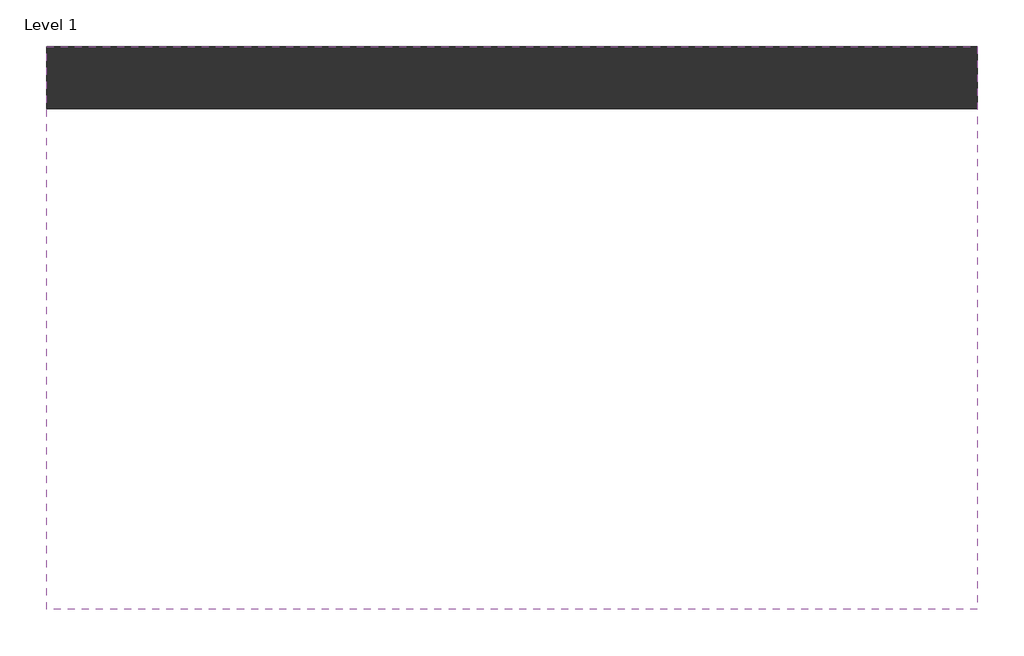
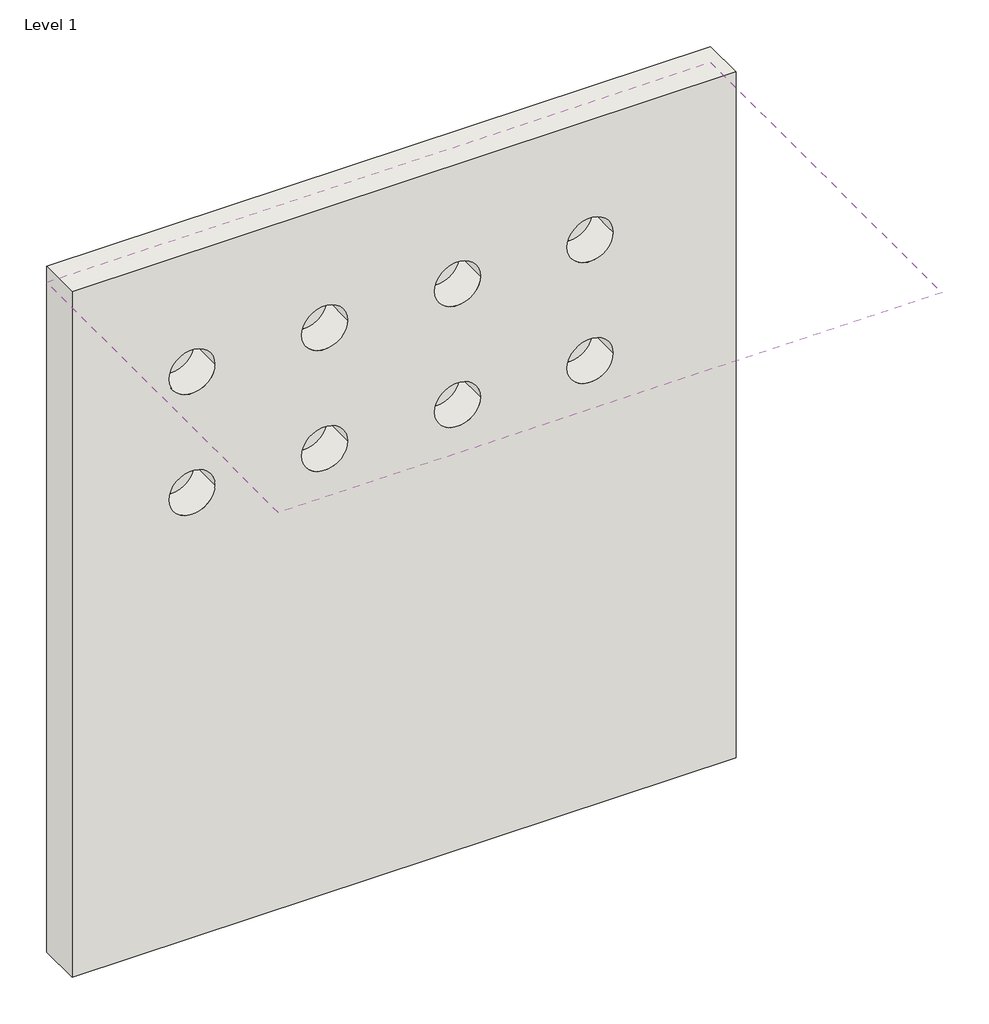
# One storey, incomplete: 1 covering, 1 wall.
"""IFC4 building model written with IfcOpenShell, lengths in millimetres."""

from ifc_helpers import new_model, si_unit, point, frame, frame_2d, origin, place, context, project, spatial, polyline, circle_curve, trimmed, segment, composite_curve, outline, extrude, element, save
from ifc_brep_helpers import plane_surface, revolved_surface, advanced_brep

model = new_model("IFC4")

# Units and contexts
model_context = context("Model", 3, world=origin())
ifc_project = project(units=[si_unit("LENGTHUNIT", "METRE", prefix="MILLI")], contexts=[model_context])

# Site, building, storey
site = spatial("IfcSite", under=ifc_project)
building = spatial("IfcBuilding", under=site)
storey = spatial("IfcBuildingStorey", under=building, Name="Level 1", Elevation=0.0)

# Covering
placement = place(None, origin())
element("IfcCovering", 1, ObjectType="2' x 4' ACT System", at=placement, inside=storey, context=model_context, shape_type="SweptSolid", body=[
    extrude(outline(polyline([(1833.1973575, 2115.5766815), (4119.1973575, 2115.5766815), (4119.1973575, 732.2741036), (1833.1973575, 732.2741036), (1833.1973575, 2115.5766815)]), holes=[composite_curve([segment(trimmed(circle_curve(frame_2d((2246.1306576, 1619.3766815)), 79.0), [point((2325.1306576, 1619.3766815))], [point((2167.1306576, 1619.3766815))], True, "CARTESIAN"), True, "CONTINUOUS"), segment(trimmed(circle_curve(frame_2d((2246.1306576, 1619.3766815)), 79.0), [point((2167.1306576, 1619.3766815))], [point((2325.1306576, 1619.3766815))], True, "CARTESIAN"), True, "CONTINUOUS")], self_intersect=False), composite_curve([segment(trimmed(circle_curve(frame_2d((2706.1306576, 1619.3766815)), 79.0), [point((2785.1306576, 1619.3766815))], [point((2627.1306576, 1619.3766815))], True, "CARTESIAN"), True, "CONTINUOUS"), segment(trimmed(circle_curve(frame_2d((2706.1306576, 1619.3766815)), 79.0), [point((2627.1306576, 1619.3766815))], [point((2785.1306576, 1619.3766815))], True, "CARTESIAN"), True, "CONTINUOUS")], self_intersect=False), composite_curve([segment(trimmed(circle_curve(frame_2d((3166.1306576, 1619.3766815)), 79.0), [point((3245.1306576, 1619.3766815))], [point((3087.1306576, 1619.3766815))], True, "CARTESIAN"), True, "CONTINUOUS"), segment(trimmed(circle_curve(frame_2d((3166.1306576, 1619.3766815)), 79.0), [point((3087.1306576, 1619.3766815))], [point((3245.1306576, 1619.3766815))], True, "CARTESIAN"), True, "CONTINUOUS")], self_intersect=False), composite_curve([segment(trimmed(circle_curve(frame_2d((3626.1306576, 1619.3766815)), 79.0), [point((3705.1306576, 1619.3766815))], [point((3547.1306576, 1619.3766815))], True, "CARTESIAN"), True, "CONTINUOUS"), segment(trimmed(circle_curve(frame_2d((3626.1306576, 1619.3766815)), 79.0), [point((3547.1306576, 1619.3766815))], [point((3705.1306576, 1619.3766815))], True, "CARTESIAN"), True, "CONTINUOUS")], self_intersect=False), composite_curve([segment(trimmed(circle_curve(frame_2d((3626.1306576, 1219.3766815)), 79.0), [point((3705.1306576, 1219.3766815))], [point((3547.1306576, 1219.3766815))], True, "CARTESIAN"), True, "CONTINUOUS"), segment(trimmed(circle_curve(frame_2d((3626.1306576, 1219.3766815)), 79.0), [point((3547.1306576, 1219.3766815))], [point((3705.1306576, 1219.3766815))], True, "CARTESIAN"), True, "CONTINUOUS")], self_intersect=False), composite_curve([segment(trimmed(circle_curve(frame_2d((3166.1306576, 1219.3766815)), 79.0), [point((3245.1306576, 1219.3766815))], [point((3087.1306576, 1219.3766815))], True, "CARTESIAN"), True, "CONTINUOUS"), segment(trimmed(circle_curve(frame_2d((3166.1306576, 1219.3766815)), 79.0), [point((3087.1306576, 1219.3766815))], [point((3245.1306576, 1219.3766815))], True, "CARTESIAN"), True, "CONTINUOUS")], self_intersect=False), composite_curve([segment(trimmed(circle_curve(frame_2d((2706.1306576, 1219.3766815)), 79.0), [point((2785.1306576, 1219.3766815))], [point((2627.1306576, 1219.3766815))], True, "CARTESIAN"), True, "CONTINUOUS"), segment(trimmed(circle_curve(frame_2d((2706.1306576, 1219.3766815)), 79.0), [point((2627.1306576, 1219.3766815))], [point((2785.1306576, 1219.3766815))], True, "CARTESIAN"), True, "CONTINUOUS")], self_intersect=False), composite_curve([segment(trimmed(circle_curve(frame_2d((2246.1306576, 1219.3766815)), 79.0), [point((2325.1306576, 1219.3766815))], [point((2167.1306576, 1219.3766815))], True, "CARTESIAN"), True, "CONTINUOUS"), segment(trimmed(circle_curve(frame_2d((2246.1306576, 1219.3766815)), 79.0), [point((2167.1306576, 1219.3766815))], [point((2325.1306576, 1219.3766815))], True, "CARTESIAN"), True, "CONTINUOUS")], self_intersect=False)]), frame((0.0, 0.0, 2438.4), z_axis=(0.0, 0.0, 1.0), x_axis=(1.0, 0.0, 0.0)), (0.0, 0.0, 1.0), 57.15),
])

# Wall
element("IfcWall", 2, ObjectType="Exterior - 6\" Generic", at=placement, inside=storey, context=model_context, shape_type="AdvancedBrep", body=[
    advanced_brep(
    [(1833.1973575, 1963.1766815, 0.0), (4119.1973575, 1963.1766815, 0.0), (4119.1973575, 1963.1766815, 2495.55), (1833.1973575, 1963.1766815, 2495.55), (2167.1306576, 1963.1766815, 1620.4804373), (2325.1306576, 1963.1766815, 1620.4804373), (2624.3306576, 1963.1766815, 1620.4804373), (2782.3306576, 1963.1766815, 1620.4804373), (3081.5306576, 1963.1766815, 1620.4804373), (3239.5306576, 1963.1766815, 1620.4804373), (3538.7306576, 1963.1766815, 1620.4804373), (3696.7306576, 1963.1766815, 1620.4804373), (3538.7306576, 1963.1766815, 2060.4804373), (3696.7306576, 1963.1766815, 2060.4804373), (3081.5306576, 1963.1766815, 2060.4804373), (3239.5306576, 1963.1766815, 2060.4804373), (2624.3306576, 1963.1766815, 2060.4804373), (2782.3306576, 1963.1766815, 2060.4804373), (2167.1306576, 1963.1766815, 2060.4804373), (2325.1306576, 1963.1766815, 2060.4804373), (4119.1973575, 2115.5766815, 0.0), (1833.1973575, 2115.5766815, 0.0), (1833.1973575, 2115.5766815, 2495.55), (4119.1973575, 2115.5766815, 2495.55), (2325.1306576, 2087.1167099, 1620.4804373), (2167.1306576, 2087.1167099, 1620.4804373), (2782.3306576, 2087.1167099, 1620.4804373), (2624.3306576, 2087.1167099, 1620.4804373), (3239.5306576, 2087.1167099, 1620.4804373), (3081.5306576, 2087.1167099, 1620.4804373), (3696.7306576, 2087.1167099, 1620.4804373), (3538.7306576, 2087.1167099, 1620.4804373), (3696.7306576, 2087.1167099, 2060.4804373), (3538.7306576, 2087.1167099, 2060.4804373), (3239.5306576, 2087.1167099, 2060.4804373), (3081.5306576, 2087.1167099, 2060.4804373), (2782.3306576, 2087.1167099, 2060.4804373), (2624.3306576, 2087.1167099, 2060.4804373), (2325.1306576, 2087.1167099, 2060.4804373), (2167.1306576, 2087.1167099, 2060.4804373)],
    [
        (0, 1),
        (1, 2),
        (2, 3),
        (3, 0),
        (4, 5, circle_curve(frame((2246.1306576, 1963.1766815, 1620.4804373), z_axis=(0.0, 1.0, 0.0), x_axis=(-1.0, 0.0, 0.0)), 79.0)),
        (5, 4, circle_curve(frame((2246.1306576, 1963.1766815, 1620.4804373), z_axis=(0.0, 1.0, 0.0), x_axis=(-1.0, 0.0, 0.0)), 79.0)),
        (6, 7, circle_curve(frame((2703.3306576, 1963.1766815, 1620.4804373), z_axis=(0.0, 1.0, 0.0), x_axis=(-1.0, 0.0, 0.0)), 79.0)),
        (7, 6, circle_curve(frame((2703.3306576, 1963.1766815, 1620.4804373), z_axis=(0.0, 1.0, 0.0), x_axis=(-1.0, 0.0, 0.0)), 79.0)),
        (8, 9, circle_curve(frame((3160.5306576, 1963.1766815, 1620.4804373), z_axis=(0.0, 1.0, 0.0), x_axis=(-1.0, 0.0, 0.0)), 79.0)),
        (9, 8, circle_curve(frame((3160.5306576, 1963.1766815, 1620.4804373), z_axis=(0.0, 1.0, 0.0), x_axis=(-1.0, 0.0, 0.0)), 79.0)),
        (10, 11, circle_curve(frame((3617.7306576, 1963.1766815, 1620.4804373), z_axis=(0.0, 1.0, 0.0), x_axis=(-1.0, 0.0, 0.0)), 79.0)),
        (11, 10, circle_curve(frame((3617.7306576, 1963.1766815, 1620.4804373), z_axis=(0.0, 1.0, 0.0), x_axis=(-1.0, 0.0, 0.0)), 79.0)),
        (12, 13, circle_curve(frame((3617.7306576, 1963.1766815, 2060.4804373), z_axis=(0.0, 1.0, 0.0), x_axis=(-1.0, 0.0, 0.0)), 79.0)),
        (13, 12, circle_curve(frame((3617.7306576, 1963.1766815, 2060.4804373), z_axis=(0.0, 1.0, 0.0), x_axis=(-1.0, 0.0, 0.0)), 79.0)),
        (14, 15, circle_curve(frame((3160.5306576, 1963.1766815, 2060.4804373), z_axis=(0.0, 1.0, 0.0), x_axis=(-1.0, 0.0, 0.0)), 79.0)),
        (15, 14, circle_curve(frame((3160.5306576, 1963.1766815, 2060.4804373), z_axis=(0.0, 1.0, 0.0), x_axis=(-1.0, 0.0, 0.0)), 79.0)),
        (16, 17, circle_curve(frame((2703.3306576, 1963.1766815, 2060.4804373), z_axis=(0.0, 1.0, 0.0), x_axis=(-1.0, 0.0, 0.0)), 79.0)),
        (17, 16, circle_curve(frame((2703.3306576, 1963.1766815, 2060.4804373), z_axis=(0.0, 1.0, 0.0), x_axis=(-1.0, 0.0, 0.0)), 79.0)),
        (18, 19, circle_curve(frame((2246.1306576, 1963.1766815, 2060.4804373), z_axis=(0.0, 1.0, 0.0), x_axis=(-1.0, 0.0, 0.0)), 79.0)),
        (19, 18, circle_curve(frame((2246.1306576, 1963.1766815, 2060.4804373), z_axis=(0.0, 1.0, 0.0), x_axis=(-1.0, 0.0, 0.0)), 79.0)),
        (20, 21),
        (21, 22),
        (22, 23),
        (23, 20),
        (0, 21),
        (20, 1),
        (23, 2),
        (22, 3),
        (24, 25, circle_curve(frame((2246.1306576, 2087.1167099, 1620.4804373), z_axis=(0.0, -1.0, 0.0), x_axis=(-1.0, 0.0, 0.0)), 79.0)),
        (25, 24, circle_curve(frame((2246.1306576, 2087.1167099, 1620.4804373), z_axis=(0.0, -1.0, 0.0), x_axis=(-1.0, 0.0, 0.0)), 79.0)),
        (24, 5),
        (4, 25),
        (26, 27, circle_curve(frame((2703.3306576, 2087.1167099, 1620.4804373), z_axis=(0.0, -1.0, 0.0), x_axis=(-1.0, 0.0, 0.0)), 79.0)),
        (27, 26, circle_curve(frame((2703.3306576, 2087.1167099, 1620.4804373), z_axis=(0.0, -1.0, 0.0), x_axis=(-1.0, 0.0, 0.0)), 79.0)),
        (26, 7),
        (6, 27),
        (28, 29, circle_curve(frame((3160.5306576, 2087.1167099, 1620.4804373), z_axis=(0.0, -1.0, 0.0), x_axis=(-1.0, 0.0, 0.0)), 79.0)),
        (29, 28, circle_curve(frame((3160.5306576, 2087.1167099, 1620.4804373), z_axis=(0.0, -1.0, 0.0), x_axis=(-1.0, 0.0, 0.0)), 79.0)),
        (28, 9),
        (8, 29),
        (30, 31, circle_curve(frame((3617.7306576, 2087.1167099, 1620.4804373), z_axis=(0.0, -1.0, 0.0), x_axis=(-1.0, 0.0, 0.0)), 79.0)),
        (31, 30, circle_curve(frame((3617.7306576, 2087.1167099, 1620.4804373), z_axis=(0.0, -1.0, 0.0), x_axis=(-1.0, 0.0, 0.0)), 79.0)),
        (30, 11),
        (10, 31),
        (32, 33, circle_curve(frame((3617.7306576, 2087.1167099, 2060.4804373), z_axis=(0.0, -1.0, 0.0), x_axis=(-1.0, 0.0, 0.0)), 79.0)),
        (33, 32, circle_curve(frame((3617.7306576, 2087.1167099, 2060.4804373), z_axis=(0.0, -1.0, 0.0), x_axis=(-1.0, 0.0, 0.0)), 79.0)),
        (32, 13),
        (12, 33),
        (34, 35, circle_curve(frame((3160.5306576, 2087.1167099, 2060.4804373), z_axis=(0.0, -1.0, 0.0), x_axis=(-1.0, 0.0, 0.0)), 79.0)),
        (35, 34, circle_curve(frame((3160.5306576, 2087.1167099, 2060.4804373), z_axis=(0.0, -1.0, 0.0), x_axis=(-1.0, 0.0, 0.0)), 79.0)),
        (34, 15),
        (14, 35),
        (36, 37, circle_curve(frame((2703.3306576, 2087.1167099, 2060.4804373), z_axis=(0.0, -1.0, 0.0), x_axis=(-1.0, 0.0, 0.0)), 79.0)),
        (37, 36, circle_curve(frame((2703.3306576, 2087.1167099, 2060.4804373), z_axis=(0.0, -1.0, 0.0), x_axis=(-1.0, 0.0, 0.0)), 79.0)),
        (36, 17),
        (16, 37),
        (38, 39, circle_curve(frame((2246.1306576, 2087.1167099, 2060.4804373), z_axis=(0.0, -1.0, 0.0), x_axis=(-1.0, 0.0, 0.0)), 79.0)),
        (39, 38, circle_curve(frame((2246.1306576, 2087.1167099, 2060.4804373), z_axis=(0.0, -1.0, 0.0), x_axis=(-1.0, 0.0, 0.0)), 79.0)),
        (38, 19),
        (18, 39),
    ],
    [
        plane_surface(frame((1833.1973575, 1963.1766815, 0.0), z_axis=(0.0, -1.0, 0.0), x_axis=(1.0, 0.0, 0.0))),
        plane_surface(frame((1833.1973575, 2115.5766815, 0.0), z_axis=(0.0, 1.0, 0.0), x_axis=(-1.0, 0.0, 0.0))),
        plane_surface(frame((1833.1973575, 1963.1766815, 0.0), z_axis=(0.0, 0.0, -1.0), x_axis=(0.0, 1.0, 0.0))),
        plane_surface(frame((4119.1973575, 1963.1766815, 0.0), z_axis=(1.0, 0.0, 0.0), x_axis=(0.0, 1.0, 0.0))),
        plane_surface(frame((4119.1973575, 1963.1766815, 2495.55), z_axis=(0.0, 0.0, 1.0), x_axis=(0.0, 1.0, 0.0))),
        plane_surface(frame((1833.1973575, 1963.1766815, 2495.55), z_axis=(-1.0, 0.0, 0.0), x_axis=(0.0, 1.0, 0.0))),
        plane_surface(frame((2167.1306576, 2087.1167099, 1620.4804373), z_axis=(0.0, -1.0, 0.0), x_axis=(0.0, 0.0, 1.0))),
        revolved_surface(polyline([(2167.1306576, 1963.1766815, 1620.4804373), (2167.1306576, 2087.1167099, 1620.4804373)]), (2246.1306576, 2087.1167099, 1620.4804373), (0.0, -1.0, 0.0)),
        plane_surface(frame((2624.3306576, 2087.1167099, 1620.4804373), z_axis=(0.0, -1.0, 0.0), x_axis=(0.0, 0.0, 1.0))),
        revolved_surface(polyline([(2624.3306576, 1963.1766815, 1620.4804373), (2624.3306576, 2087.1167099, 1620.4804373)]), (2703.3306576, 2087.1167099, 1620.4804373), (0.0, -1.0, 0.0)),
        plane_surface(frame((3081.5306576, 2087.1167099, 1620.4804373), z_axis=(0.0, -1.0, 0.0), x_axis=(0.0, 0.0, 1.0))),
        revolved_surface(polyline([(3081.5306576, 1963.1766815, 1620.4804373), (3081.5306576, 2087.1167099, 1620.4804373)]), (3160.5306576, 2087.1167099, 1620.4804373), (0.0, -1.0, 0.0)),
        plane_surface(frame((3538.7306576, 2087.1167099, 1620.4804373), z_axis=(0.0, -1.0, 0.0), x_axis=(0.0, 0.0, 1.0))),
        revolved_surface(polyline([(3538.7306576, 1963.1766815, 1620.4804373), (3538.7306576, 2087.1167099, 1620.4804373)]), (3617.7306576, 2087.1167099, 1620.4804373), (0.0, -1.0, 0.0)),
        plane_surface(frame((3538.7306576, 2087.1167099, 2060.4804373), z_axis=(0.0, -1.0, 0.0), x_axis=(0.0, 0.0, 1.0))),
        revolved_surface(polyline([(3538.7306576, 1963.1766815, 2060.4804373), (3538.7306576, 2087.1167099, 2060.4804373)]), (3617.7306576, 2087.1167099, 2060.4804373), (0.0, -1.0, 0.0)),
        plane_surface(frame((3081.5306576, 2087.1167099, 2060.4804373), z_axis=(0.0, -1.0, 0.0), x_axis=(0.0, 0.0, 1.0))),
        revolved_surface(polyline([(3081.5306576, 1963.1766815, 2060.4804373), (3081.5306576, 2087.1167099, 2060.4804373)]), (3160.5306576, 2087.1167099, 2060.4804373), (0.0, -1.0, 0.0)),
        plane_surface(frame((2624.3306576, 2087.1167099, 2060.4804373), z_axis=(0.0, -1.0, 0.0), x_axis=(0.0, 0.0, 1.0))),
        revolved_surface(polyline([(2624.3306576, 1963.1766815, 2060.4804373), (2624.3306576, 2087.1167099, 2060.4804373)]), (2703.3306576, 2087.1167099, 2060.4804373), (0.0, -1.0, 0.0)),
        plane_surface(frame((2167.1306576, 2087.1167099, 2060.4804373), z_axis=(0.0, -1.0, 0.0), x_axis=(0.0, 0.0, 1.0))),
        revolved_surface(polyline([(2167.1306576, 1963.1766815, 2060.4804373), (2167.1306576, 2087.1167099, 2060.4804373)]), (2246.1306576, 2087.1167099, 2060.4804373), (0.0, -1.0, 0.0)),
    ],
    [
        (0, [[1, 2, 3, 4], [5, 6], [7, 8], [9, 10], [11, 12], [13, 14], [15, 16], [17, 18], [19, 20]]),
        (1, [[21, 22, 23, 24]]),
        (2, [[-1, 25, -21, 26]]),
        (3, [[-2, -26, -24, 27]]),
        (4, [[-3, -27, -23, 28]]),
        (5, [[-4, -28, -22, -25]]),
        (6, [[29, 30]]),
        (7, [[-29, 31, -5, 32]]),
        (7, [[-30, -32, -6, -31]]),
        (8, [[33, 34]]),
        (9, [[-33, 35, -7, 36]]),
        (9, [[-34, -36, -8, -35]]),
        (10, [[37, 38]]),
        (11, [[-37, 39, -9, 40]]),
        (11, [[-38, -40, -10, -39]]),
        (12, [[41, 42]]),
        (13, [[-41, 43, -11, 44]]),
        (13, [[-42, -44, -12, -43]]),
        (14, [[45, 46]]),
        (15, [[-45, 47, -13, 48]]),
        (15, [[-46, -48, -14, -47]]),
        (16, [[49, 50]]),
        (17, [[-49, 51, -15, 52]]),
        (17, [[-50, -52, -16, -51]]),
        (18, [[53, 54]]),
        (19, [[-53, 55, -17, 56]]),
        (19, [[-54, -56, -18, -55]]),
        (20, [[57, 58]]),
        (21, [[-57, 59, -19, 60]]),
        (21, [[-58, -60, -20, -59]]),
    ],
),
])

save(model, "model.ifc")
